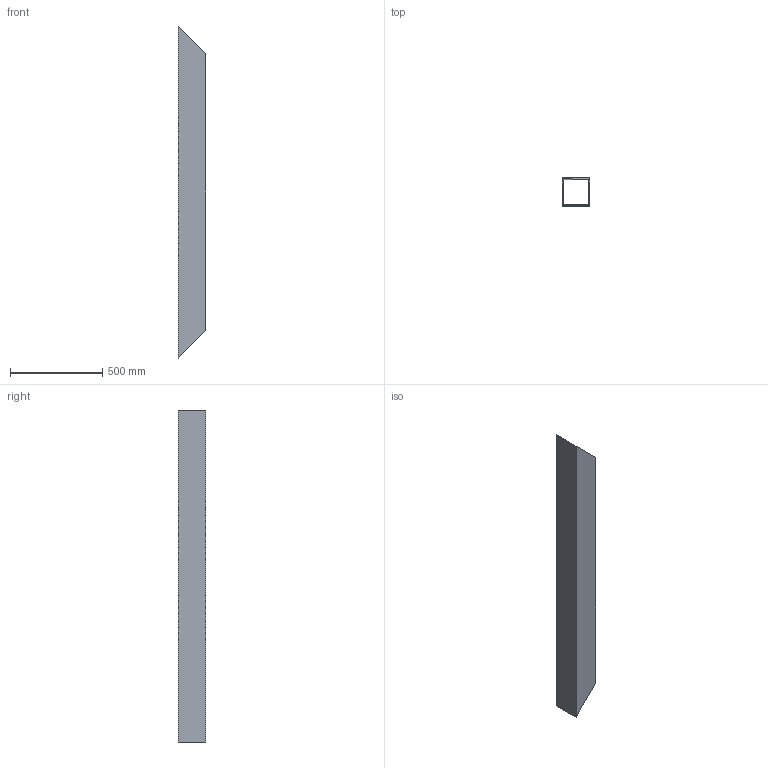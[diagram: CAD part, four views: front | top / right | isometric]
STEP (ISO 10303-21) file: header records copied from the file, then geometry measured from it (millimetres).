
FILE_DESCRIPTION(('Open CASCADE Model'),'2;1');
FILE_NAME('Open CASCADE Shape Model','2026-10-15T15:10:03',('Author'),( 'Open CASCADE'),'Open CASCADE STEP processor 8.0','Open CASCADE 8.0' ,'Unknown');
FILE_SCHEMA(('AUTOMOTIVE_DESIGN { 1 0 10303 214 1 1 1 1 }'));
Length unit declared in the file: millimetre
Products named in the file (1): SHS150x150x6_L1650000_CUT8f76b3_P05 6
Bounding box: 150 x 150 x 1800 mm (x, y, z)
Volume: 5702400 mm3; surface area: 1910575 mm2
Topology: 1 solids, 1 shells, 10 faces, 24 edges, 16 vertices
Faces by surface type: plane 10
Entity records: 586 total; most frequent: CARTESIAN_POINT 127, DIRECTION 66, ORIENTED_EDGE 48, PCURVE 48, DEFINITIONAL_REPRESENTATION 48, LINE 44, VECTOR 44, B_SPLINE_CURVE_WITH_KNOTS 28
